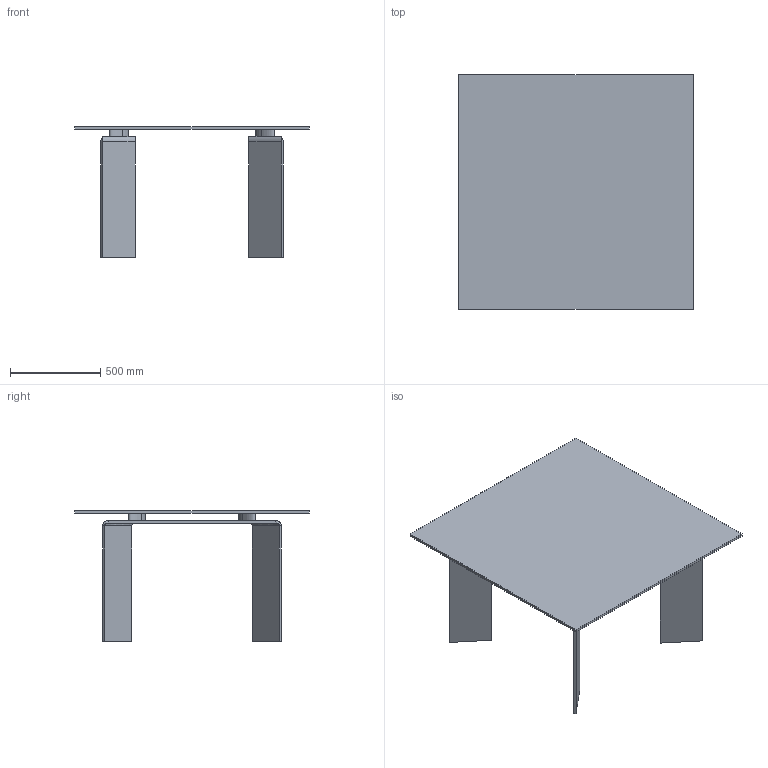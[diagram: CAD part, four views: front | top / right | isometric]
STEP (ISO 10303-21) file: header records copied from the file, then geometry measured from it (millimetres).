
FILE_DESCRIPTION(/* description */ (''),/* implementation_level */ '2;1');
FILE_NAME(/* name */ '1704 - Ray 130x130',/* time_stamp */ '2010-12-14T09:31:24+01:00',/* author */ (''),/* organization */ (''),/* preprocessor_version */ 'ST-DEVELOPER v10',/* originating_system */ '',/* authorisation */ '');
FILE_SCHEMA (('CONFIG_CONTROL_DESIGN'));
Length unit declared in the file: centimetre
Products named in the file (1): 1
Bounding box: 1300 x 1300 x 725 mm (x, y, z)
Volume: 39771805.5 mm3; surface area: 5504047.5 mm2
Topology: 7 solids, 7 shells, 66 faces, 124 edges, 72 vertices
Faces by surface type: plane 38, bspline 28
Entity records: 2168 total; most frequent: CARTESIAN_POINT 1226, ORIENTED_EDGE 248, EDGE_CURVE 124, B_SPLINE_CURVE_WITH_KNOTS 76, VERTEX_POINT 72, ADVANCED_FACE 66, FACE_OUTER_BOUND 66, EDGE_LOOP 66
